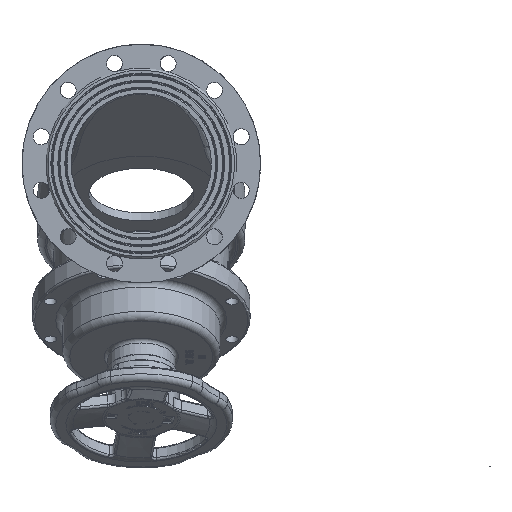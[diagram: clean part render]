
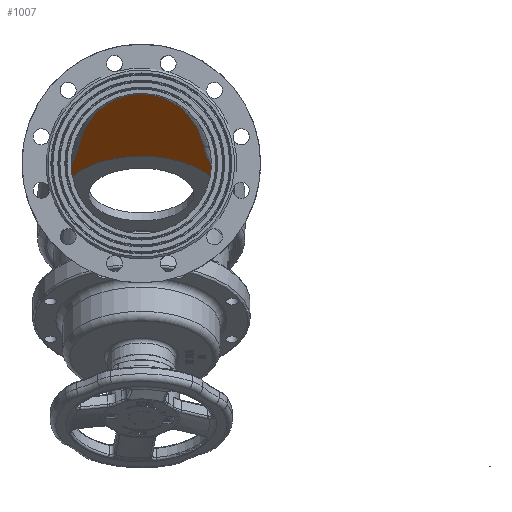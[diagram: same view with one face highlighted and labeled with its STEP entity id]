
A CAD part, left-side view. The second image highlights one B-rep face of the part: STEP entity #1007.
In plain terms, the highlighted planar face has unit normal (-0.5, 0, -0.866).
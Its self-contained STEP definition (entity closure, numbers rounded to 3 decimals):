
#1007=ADVANCED_FACE('',(#24871,#24873),#24875,.T.);
#24871=FACE_BOUND('',#24872,.T.);
#24872=EDGE_LOOP('',(#84359,#84360,#84361,#84362));
#24873=FACE_BOUND('',#24874,.T.);
#24874=EDGE_LOOP('',(#84363));
#24875=PLANE('',#24876);
#24876=AXIS2_PLACEMENT_3D('',#24877,#24878,#24879);
#24877=CARTESIAN_POINT('',(373.382,19.576,-156.668));
#24878=DIRECTION('',(-0.5,0.,-0.866));
#24879=DIRECTION('',(-0.866,0.,0.5));
#84359=ORIENTED_EDGE('',*,*,#97382,.T.);
#84360=ORIENTED_EDGE('',*,*,#97383,.T.);
#84361=ORIENTED_EDGE('',*,*,#97371,.T.);
#84362=ORIENTED_EDGE('',*,*,#97381,.T.);
#84363=ORIENTED_EDGE('',*,*,#97384,.F.);
#97371=EDGE_CURVE('',#103931,#103929,#103932,.T.);
#97381=EDGE_CURVE('',#103929,#103946,#103948,.T.);
#97382=EDGE_CURVE('',#103946,#103949,#103950,.T.);
#97383=EDGE_CURVE('',#103949,#103931,#103951,.T.);
#97384=EDGE_CURVE('',#103952,#103952,#103953,.T.);
#103929=VERTEX_POINT('',#115690);
#103931=VERTEX_POINT('',#115707);
#103932=B_SPLINE_CURVE_WITH_KNOTS('',3,
(#115708,#115709,#115710,#115711,#115712,#115713,#115714,#115715,#115716,#115717,
#115718,#115719,#115720,#115721,#115722,#115723,#115724,#115725,#115726,#115727,
#115728,#115729,#115730,#115731,#115732,#115733,#115734,#115735,#115736,#115737,
#115738,#115739,#115740,#115741,#115742,#115743,#115744,#115745,#115746,#115747,
#115748,#115749,#115750,#115751,#115752,#115753,#115754,#115755,#115756,#115757,
#115758,#115759,#115760,#115761,#115762,#115763,#115764,#115765,#115766,#115767,
#115768,#115769),
.UNSPECIFIED.,.F.,.F.,
(4,2,2,2,2,2,2,2,2,2,2,2,2,2,2,2,2,2,2,2,2,2,2,2,2,2,2,2,2,2,4),
(0.,0.045,0.091,0.136,0.181,0.227,
0.27,0.308,0.342,0.372,0.4,
0.426,0.45,0.474,0.496,0.519,
0.542,0.565,0.589,0.614,0.641,
0.67,0.701,0.736,0.774,0.818,
0.864,0.909,0.954,1.,1.),
.UNSPECIFIED.);
#103946=VERTEX_POINT('',#115916);
#103948=B_SPLINE_CURVE_WITH_KNOTS('',3,
(#115921,#115922,#115923,#115924,#115925,#115926,#115927,#115928),
.UNSPECIFIED.,.F.,.F.,
(4,2,2,4),
(0.,0.376,0.713,1.),
.UNSPECIFIED.);
#103949=VERTEX_POINT('',#115929);
#103950=CIRCLE('',#115930,125.);
#103951=B_SPLINE_CURVE_WITH_KNOTS('',3,
(#115934,#115935,#115936,#115937,#115938,#115939,#115940,#115941,#115942,#115943),
.UNSPECIFIED.,.F.,.F.,
(4,2,2,2,4),
(0.,0.31,0.626,0.961,1.),
.UNSPECIFIED.);
#103952=VERTEX_POINT('',#115944);
#103953=CIRCLE('',#115945,112.5);
#115690=CARTESIAN_POINT('',(250.379,108.059,-85.652));
#115707=CARTESIAN_POINT('',(250.379,-68.907,-85.652));
#115708=CARTESIAN_POINT('',(250.379,-68.907,-85.652));
#115709=CARTESIAN_POINT('',(243.989,-68.099,-81.963));
#115710=CARTESIAN_POINT('',(237.599,-67.292,-78.274));
#115711=CARTESIAN_POINT('',(225.193,-65.001,-71.111));
#115712=CARTESIAN_POINT('',(219.067,-63.62,-67.574));
#115713=CARTESIAN_POINT('',(207.256,-60.449,-60.755));
#115714=CARTESIAN_POINT('',(201.478,-58.635,-57.419));
#115715=CARTESIAN_POINT('',(190.449,-54.635,-51.051));
#115716=CARTESIAN_POINT('',(185.11,-52.418,-47.969));
#115717=CARTESIAN_POINT('',(175.036,-47.651,-42.153));
#115718=CARTESIAN_POINT('',(170.221,-45.065,-39.373));
#115719=CARTESIAN_POINT('',(161.402,-39.693,-34.281));
#115720=CARTESIAN_POINT('',(157.313,-36.877,-31.921));
#115721=CARTESIAN_POINT('',(150.316,-31.416,-27.881));
#115722=CARTESIAN_POINT('',(147.284,-28.769,-26.13));
#115723=CARTESIAN_POINT('',(142.068,-23.65,-23.119));
#115724=CARTESIAN_POINT('',(139.804,-21.17,-21.812));
#115725=CARTESIAN_POINT('',(135.904,-16.37,-19.56));
#115726=CARTESIAN_POINT('',(134.215,-14.042,-18.585));
#115727=CARTESIAN_POINT('',(131.316,-9.524,-16.911));
#115728=CARTESIAN_POINT('',(130.07,-7.326,-16.192));
#115729=CARTESIAN_POINT('',(127.956,-3.046,-14.971));
#115730=CARTESIAN_POINT('',(127.062,-0.955,-14.455));
#115731=CARTESIAN_POINT('',(125.58,3.134,-13.6));
#115732=CARTESIAN_POINT('',(124.975,5.14,-13.25));
#115733=CARTESIAN_POINT('',(124.023,9.083,-12.701));
#115734=CARTESIAN_POINT('',(123.665,11.028,-12.494));
#115735=CARTESIAN_POINT('',(123.176,14.871,-12.211));
#115736=CARTESIAN_POINT('',(123.038,16.777,-12.132));
#115737=CARTESIAN_POINT('',(122.973,20.564,-12.094));
#115738=CARTESIAN_POINT('',(123.043,22.452,-12.135));
#115739=CARTESIAN_POINT('',(123.389,26.224,-12.334));
#115740=CARTESIAN_POINT('',(123.666,28.116,-12.494));
#115741=CARTESIAN_POINT('',(124.433,31.915,-12.937));
#115742=CARTESIAN_POINT('',(124.928,33.829,-13.223));
#115743=CARTESIAN_POINT('',(126.149,37.693,-13.928));
#115744=CARTESIAN_POINT('',(126.885,39.65,-14.353));
#115745=CARTESIAN_POINT('',(128.617,43.615,-15.353));
#115746=CARTESIAN_POINT('',(129.629,45.632,-15.937));
#115747=CARTESIAN_POINT('',(131.958,49.732,-17.282));
#115748=CARTESIAN_POINT('',(133.297,51.824,-18.055));
#115749=CARTESIAN_POINT('',(136.342,56.089,-19.813));
#115750=CARTESIAN_POINT('',(138.078,58.269,-20.815));
#115751=CARTESIAN_POINT('',(142.002,62.719,-23.08));
#115752=CARTESIAN_POINT('',(144.23,64.997,-24.367));
#115753=CARTESIAN_POINT('',(149.249,69.643,-27.265));
#115754=CARTESIAN_POINT('',(152.098,72.019,-28.91));
#115755=CARTESIAN_POINT('',(158.508,76.851,-32.611));
#115756=CARTESIAN_POINT('',(162.152,79.311,-34.714));
#115757=CARTESIAN_POINT('',(170.352,84.284,-39.449));
#115758=CARTESIAN_POINT('',(175.027,86.792,-42.148));
#115759=CARTESIAN_POINT('',(184.945,91.498,-47.874));
#115760=CARTESIAN_POINT('',(190.279,93.72,-50.953));
#115761=CARTESIAN_POINT('',(201.299,97.728,-57.316));
#115762=CARTESIAN_POINT('',(207.073,99.546,-60.649));
#115763=CARTESIAN_POINT('',(218.876,102.726,-67.464));
#115764=CARTESIAN_POINT('',(224.999,104.112,-70.999));
#115765=CARTESIAN_POINT('',(237.4,106.412,-78.159));
#115766=CARTESIAN_POINT('',(243.759,107.343,-81.83));
#115767=CARTESIAN_POINT('',(250.244,108.044,-85.574));
#115768=CARTESIAN_POINT('',(250.312,108.051,-85.613));
#115769=CARTESIAN_POINT('',(250.379,108.059,-85.652));
#115916=CARTESIAN_POINT('',(325.531,131.701,-129.041));
#115921=CARTESIAN_POINT('',(250.379,108.059,-85.652));
#115922=CARTESIAN_POINT('',(260.189,109.393,-91.316));
#115923=CARTESIAN_POINT('',(269.999,110.727,-96.98));
#115924=CARTESIAN_POINT('',(288.082,115.365,-107.42));
#115925=CARTESIAN_POINT('',(296.489,118.101,-112.274));
#115926=CARTESIAN_POINT('',(311.776,124.449,-121.1));
#115927=CARTESIAN_POINT('',(318.653,128.075,-125.07));
#115928=CARTESIAN_POINT('',(325.531,131.701,-129.041));
#115929=CARTESIAN_POINT('',(325.531,-92.549,-129.041));
#115930=AXIS2_PLACEMENT_3D('',#115931,#115932,#115933);
#115931=CARTESIAN_POINT('',(373.382,19.576,-156.668));
#115932=DIRECTION('',(-0.5,0.,-0.866));
#115933=DIRECTION('',(-0.383,0.897,0.221));
#115934=CARTESIAN_POINT('',(325.531,-92.549,-129.041));
#115935=CARTESIAN_POINT('',(318.118,-88.664,-124.762));
#115936=CARTESIAN_POINT('',(310.706,-84.78,-120.482));
#115937=CARTESIAN_POINT('',(295.321,-78.563,-111.599));
#115938=CARTESIAN_POINT('',(287.396,-76.024,-107.024));
#115939=CARTESIAN_POINT('',(270.846,-71.807,-97.469));
#115940=CARTESIAN_POINT('',(262.18,-70.304,-92.465));
#115941=CARTESIAN_POINT('',(252.4,-69.128,-86.819));
#115942=CARTESIAN_POINT('',(251.389,-69.018,-86.236));
#115943=CARTESIAN_POINT('',(250.379,-68.907,-85.652));
#115944=CARTESIAN_POINT('',(470.81,19.576,-212.918));
#115945=AXIS2_PLACEMENT_3D('',#115946,#115947,#115948);
#115946=CARTESIAN_POINT('',(373.382,19.576,-156.668));
#115947=DIRECTION('',(-0.5,0.,-0.866));
#115948=DIRECTION('',(-0.866,0.,0.5));
